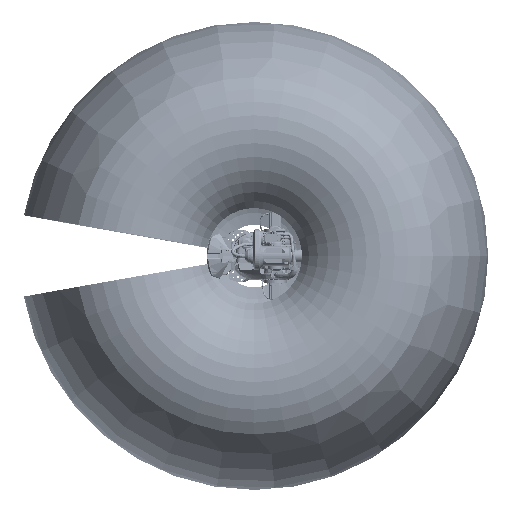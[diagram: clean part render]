
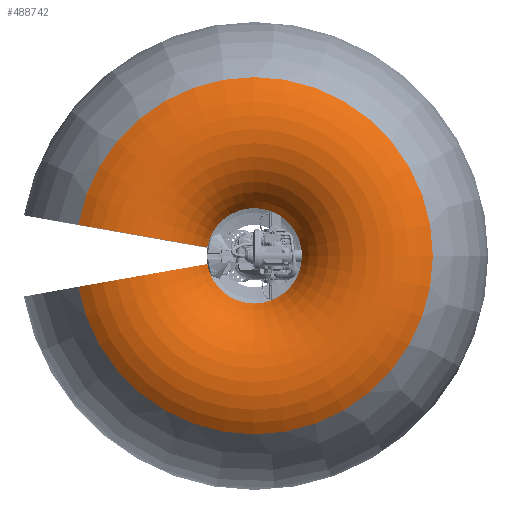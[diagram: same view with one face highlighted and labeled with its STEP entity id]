
A CAD part, top view. The second image highlights one B-rep face of the part: STEP entity #488742.
In plain terms, the highlighted toroidal (fillet/blend) face has major radius 1892.75 mm and minor radius 1295 mm.
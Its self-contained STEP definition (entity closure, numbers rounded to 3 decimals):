
#13840 = EDGE_CURVE ( 'NONE', #115085, #508629, #550550, .T. ) ;
#35408 = AXIS2_PLACEMENT_3D ( 'NONE', #485276, #133337, #139694 ) ;
#41302 = DIRECTION ( 'NONE',  ( 0., 0., -1. ) ) ;
#46579 = CIRCLE ( 'NONE', #108516, 2690.033 ) ;
#48319 = TOROIDAL_SURFACE ( 'NONE', #306256, 1892.751, 1295. ) ;
#75415 = AXIS2_PLACEMENT_3D ( 'NONE', #330350, #569354, #323966 ) ;
#108516 = AXIS2_PLACEMENT_3D ( 'NONE', #635535, #41302, #493596 ) ;
#115085 = VERTEX_POINT ( 'NONE', #327512 ) ;
#127947 = EDGE_CURVE ( 'NONE', #508629, #183005, #457408, .T. ) ;
#132203 = DIRECTION ( 'NONE',  ( 0., 0., -1. ) ) ;
#133337 = DIRECTION ( 'NONE',  ( -0.174, 0.985, 0. ) ) ;
#139694 = DIRECTION ( 'NONE',  ( 0., 0., 1. ) ) ;
#151550 = ORIENTED_EDGE ( 'NONE', *, *, #480480, .F. ) ;
#152268 = EDGE_LOOP ( 'NONE', ( #338790, #539464, #354387, #151550 ) ) ;
#155045 = CARTESIAN_POINT ( 'NONE',  ( -708.157, 124.867, 2615.347 ) ) ;
#183005 = VERTEX_POINT ( 'NONE', #565916 ) ;
#232314 = DIRECTION ( 'NONE',  ( -1., 0., 0. ) ) ;
#271227 = FACE_OUTER_BOUND ( 'NONE', #152268, .T. ) ;
#306256 = AXIS2_PLACEMENT_3D ( 'NONE', #468186, #132203, #232314 ) ;
#313898 = CIRCLE ( 'NONE', #35408, 1295. ) ;
#323966 = DIRECTION ( 'NONE',  ( -1., 0., 0. ) ) ;
#327512 = CARTESIAN_POINT ( 'NONE',  ( -2649.165, 467.119, 3088.532 ) ) ;
#330350 = CARTESIAN_POINT ( 'NONE',  ( 0., 0., 2615.347 ) ) ;
#338790 = ORIENTED_EDGE ( 'NONE', *, *, #13840, .T. ) ;
#354387 = ORIENTED_EDGE ( 'NONE', *, *, #439689, .F. ) ;
#358035 = CARTESIAN_POINT ( 'NONE',  ( -2649.165, -467.119, 3088.532 ) ) ;
#439689 = EDGE_CURVE ( 'NONE', #570474, #183005, #313898, .T. ) ;
#457408 = CIRCLE ( 'NONE', #75415, 719.082 ) ;
#468186 = CARTESIAN_POINT ( 'NONE',  ( 0., 0., 2068.058 ) ) ;
#480480 = EDGE_CURVE ( 'NONE', #115085, #570474, #46579, .T. ) ;
#485276 = CARTESIAN_POINT ( 'NONE',  ( -1863.996, -328.673, 2068.058 ) ) ;
#486871 = CARTESIAN_POINT ( 'NONE',  ( -1863.996, 328.673, 2068.058 ) ) ;
#488742 = ADVANCED_FACE ( 'NONE', ( #271227 ), #48319, .T. ) ;
#490049 = DIRECTION ( 'NONE',  ( 0., 0., 1. ) ) ;
#493335 = DIRECTION ( 'NONE',  ( 0.174, 0.985, 0. ) ) ;
#493596 = DIRECTION ( 'NONE',  ( -1., 0., 0. ) ) ;
#508629 = VERTEX_POINT ( 'NONE', #155045 ) ;
#539464 = ORIENTED_EDGE ( 'NONE', *, *, #127947, .T. ) ;
#550550 = CIRCLE ( 'NONE', #612249, 1295. ) ;
#565916 = CARTESIAN_POINT ( 'NONE',  ( -708.157, -124.867, 2615.347 ) ) ;
#569354 = DIRECTION ( 'NONE',  ( 0., 0., -1. ) ) ;
#570474 = VERTEX_POINT ( 'NONE', #358035 ) ;
#612249 = AXIS2_PLACEMENT_3D ( 'NONE', #486871, #493335, #490049 ) ;
#635535 = CARTESIAN_POINT ( 'NONE',  ( 0., 0., 3088.532 ) ) ;
